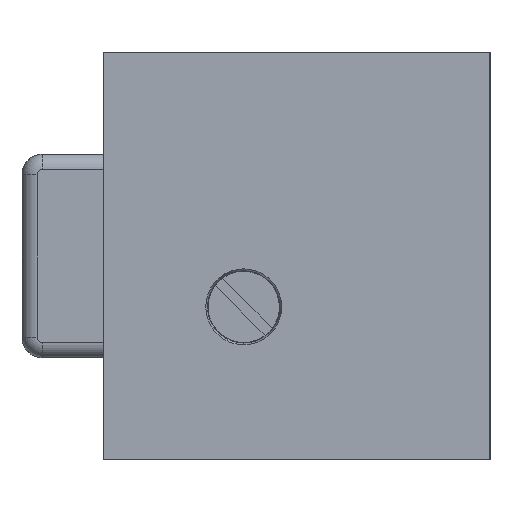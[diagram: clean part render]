
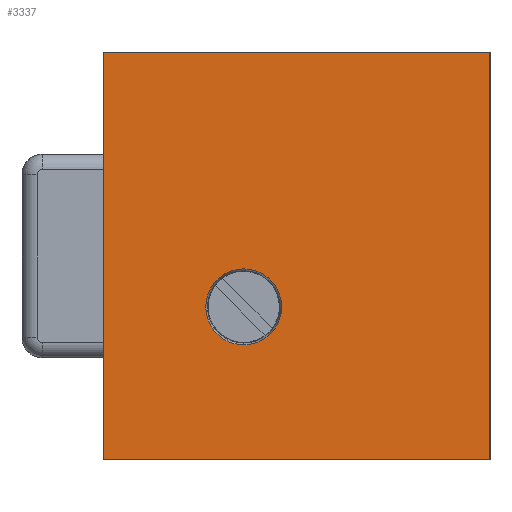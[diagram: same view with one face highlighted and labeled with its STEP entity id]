
A CAD part, left-side view. The second image highlights one B-rep face of the part: STEP entity #3337.
In plain terms, the highlighted planar face has unit normal (-1, 0, 0).
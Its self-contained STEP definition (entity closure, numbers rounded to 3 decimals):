
#21 = LINE ( 'NONE', #5086, #1409 ) ;
#27 = ORIENTED_EDGE ( 'NONE', *, *, #62, .T. ) ;
#62 = EDGE_CURVE ( 'NONE', #724, #6212, #21, .T. ) ;
#72 = CARTESIAN_POINT ( 'NONE',  ( 0., 24.2, -25. ) ) ;
#272 = AXIS2_PLACEMENT_3D ( 'NONE', #72, #606, #3945 ) ;
#364 = VERTEX_POINT ( 'NONE', #941 ) ;
#489 = DIRECTION ( 'NONE',  ( 0., 0., 1. ) ) ;
#520 = LINE ( 'NONE', #5519, #4712 ) ;
#606 = DIRECTION ( 'NONE',  ( 1., 0., 0. ) ) ;
#623 = CARTESIAN_POINT ( 'NONE',  ( 0., 24.2, -25. ) ) ;
#660 = EDGE_CURVE ( 'NONE', #364, #4410, #520, .T. ) ;
#668 = AXIS2_PLACEMENT_3D ( 'NONE', #829, #1788, #4098 ) ;
#724 = VERTEX_POINT ( 'NONE', #4937 ) ;
#806 = EDGE_LOOP ( 'NONE', ( #3564, #1460 ) ) ;
#829 = CARTESIAN_POINT ( 'NONE',  ( 0., 0., -40. ) ) ;
#890 = EDGE_CURVE ( 'NONE', #724, #364, #1176, .T. ) ;
#941 = CARTESIAN_POINT ( 'NONE',  ( 0., 38., 0. ) ) ;
#1098 = EDGE_CURVE ( 'NONE', #5826, #5199, #2228, .T. ) ;
#1176 = LINE ( 'NONE', #5282, #4041 ) ;
#1272 = EDGE_CURVE ( 'NONE', #6212, #4410, #3739, .T. ) ;
#1319 = PLANE ( 'NONE',  #668 ) ;
#1409 = VECTOR ( 'NONE', #2883, 1000. ) ;
#1460 = ORIENTED_EDGE ( 'NONE', *, *, #5587, .T. ) ;
#1788 = DIRECTION ( 'NONE',  ( -1., 0., 0. ) ) ;
#1817 = EDGE_LOOP ( 'NONE', ( #4892, #2409, #27, #2991 ) ) ;
#1896 = FACE_BOUND ( 'NONE', #806, .T. ) ;
#2119 = DIRECTION ( 'NONE',  ( 1., 0., 0. ) ) ;
#2228 = CIRCLE ( 'NONE', #2586, 3.732 ) ;
#2409 = ORIENTED_EDGE ( 'NONE', *, *, #890, .F. ) ;
#2586 = AXIS2_PLACEMENT_3D ( 'NONE', #623, #2119, #4151 ) ;
#2602 = CIRCLE ( 'NONE', #272, 3.732 ) ;
#2819 = VECTOR ( 'NONE', #489, 1000. ) ;
#2883 = DIRECTION ( 'NONE',  ( 0., -1., 0. ) ) ;
#2991 = ORIENTED_EDGE ( 'NONE', *, *, #1272, .T. ) ;
#3155 = FACE_OUTER_BOUND ( 'NONE', #1817, .T. ) ;
#3337 = ADVANCED_FACE ( 'NONE', ( #1896, #3155 ), #1319, .T. ) ;
#3564 = ORIENTED_EDGE ( 'NONE', *, *, #1098, .T. ) ;
#3739 = LINE ( 'NONE', #5211, #2819 ) ;
#3945 = DIRECTION ( 'NONE',  ( 0., 0., 1. ) ) ;
#4041 = VECTOR ( 'NONE', #5616, 1000. ) ;
#4098 = DIRECTION ( 'NONE',  ( 0., 0., 1. ) ) ;
#4151 = DIRECTION ( 'NONE',  ( 0., 0., 1. ) ) ;
#4237 = DIRECTION ( 'NONE',  ( 0., -1., 0. ) ) ;
#4250 = CARTESIAN_POINT ( 'NONE',  ( 0., 0., 0. ) ) ;
#4410 = VERTEX_POINT ( 'NONE', #4250 ) ;
#4423 = CARTESIAN_POINT ( 'NONE',  ( 0., 0., -40. ) ) ;
#4712 = VECTOR ( 'NONE', #4237, 1000. ) ;
#4773 = CARTESIAN_POINT ( 'NONE',  ( 0., 24.2, -21.268 ) ) ;
#4844 = CARTESIAN_POINT ( 'NONE',  ( 0., 24.2, -28.732 ) ) ;
#4892 = ORIENTED_EDGE ( 'NONE', *, *, #660, .F. ) ;
#4937 = CARTESIAN_POINT ( 'NONE',  ( 0., 38., -40. ) ) ;
#5086 = CARTESIAN_POINT ( 'NONE',  ( 0., 0., -40. ) ) ;
#5199 = VERTEX_POINT ( 'NONE', #4844 ) ;
#5211 = CARTESIAN_POINT ( 'NONE',  ( 0., 0., -40. ) ) ;
#5282 = CARTESIAN_POINT ( 'NONE',  ( 0., 38., -40. ) ) ;
#5519 = CARTESIAN_POINT ( 'NONE',  ( 0., 0., 0. ) ) ;
#5587 = EDGE_CURVE ( 'NONE', #5199, #5826, #2602, .T. ) ;
#5616 = DIRECTION ( 'NONE',  ( 0., 0., 1. ) ) ;
#5826 = VERTEX_POINT ( 'NONE', #4773 ) ;
#6212 = VERTEX_POINT ( 'NONE', #4423 ) ;
